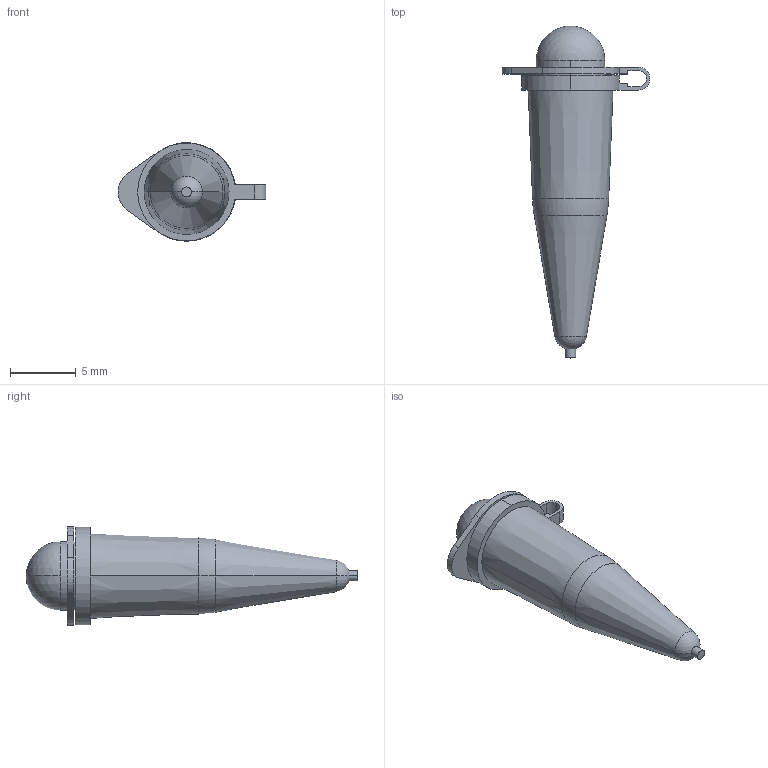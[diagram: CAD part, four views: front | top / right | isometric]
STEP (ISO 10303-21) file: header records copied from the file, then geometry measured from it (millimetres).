
FILE_DESCRIPTION (( 'STEP AP214' ), '1' );
FILE_NAME ('PCR Tube.STEP', '2013-06-10T17:28:54', ( '' ), ( '' ), 'SwSTEP 2.0', 'SolidWorks 2012', '' );
FILE_SCHEMA (( 'AUTOMOTIVE_DESIGN' ));
Length unit declared in the file: inch
Products named in the file (1): PCR Tube
Bounding box: 11.28 x 25.34 x 7.51 mm (x, y, z)
Volume: 236 mm3; surface area: 859.6 mm2
Topology: 1 solids, 2 shells, 60 faces, 143 edges, 89 vertices
Faces by surface type: cylinder 20, plane 20, sphere 8, cone 8, torus 4
Entity records: 1769 total; most frequent: DIRECTION 335, CARTESIAN_POINT 289, ORIENTED_EDGE 278, EDGE_CURVE 139, AXIS2_PLACEMENT_3D 135, VERTEX_POINT 89, CIRCLE 74, EDGE_LOOP 66
